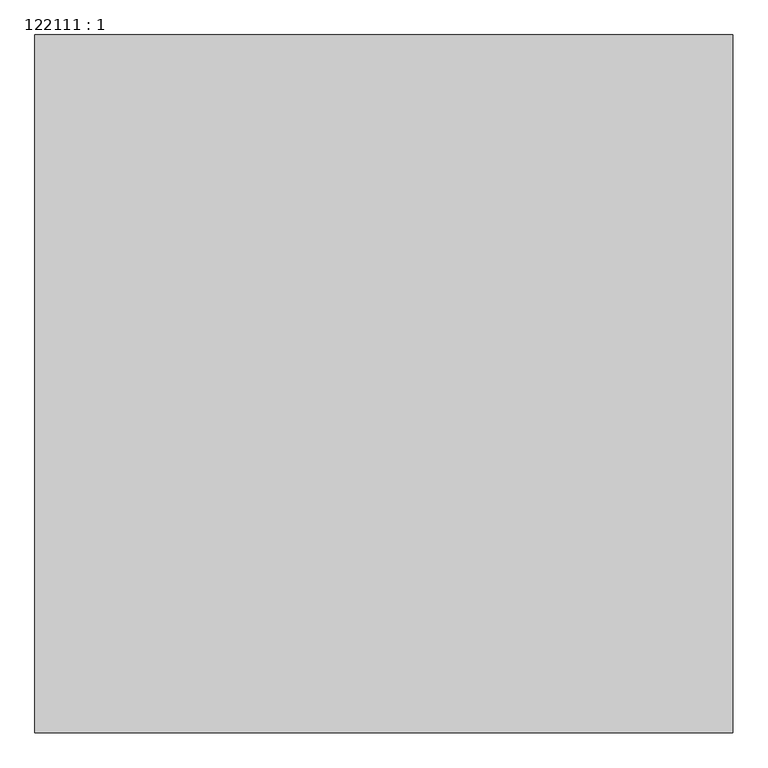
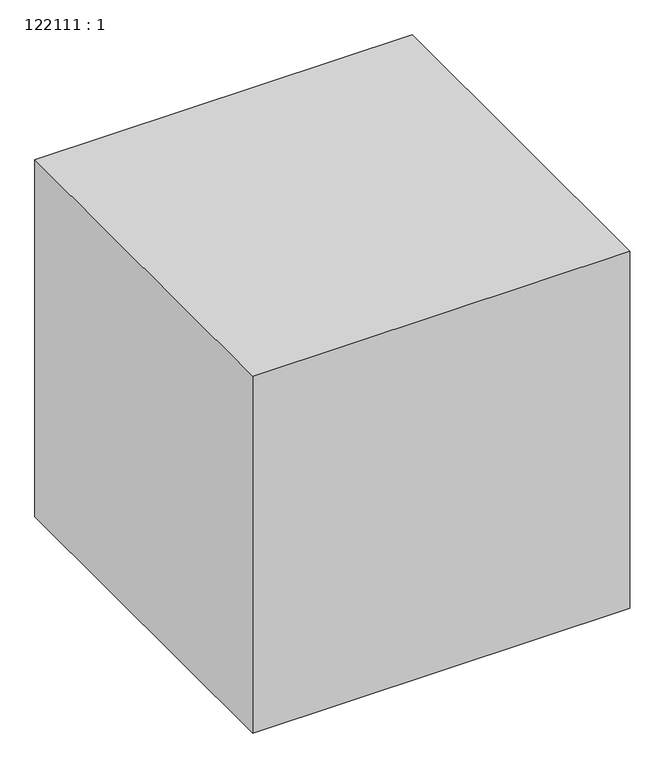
"""IFC4 building model written with IfcOpenShell, lengths in millimetres: proxy geometry, 122111 : 1."""

from ifc_helpers import new_model, si_unit, origin, origin_with_axes, place, context, project, spatial, polyline, outline, extrude, source, transform, mapped, element, save


def proxy_122111_1_8a0e9cde(model_context):
    return source(origin(), model_context, "Body", "SweptSolid", [
        extrude(outline(polyline([(-8307.9756708, 21335.2294472), (-8307.9756708, 20335.2294472), (-9307.9756708, 20335.2294472), (-9307.9756708, 21335.2294472), (-8307.9756708, 21335.2294472)])), origin_with_axes(), (0.0, 0.0, 1.0), 1000.0),
    ])


if __name__ == "__main__":
    model = new_model("IFC4")
    model_context = context("Model", 3, world=origin())
    ifc_project = project(units=[si_unit("LENGTHUNIT", "METRE", prefix="MILLI")], contexts=[model_context])
    site = spatial("IfcSite", under=ifc_project)
    building = spatial("IfcBuilding", under=site)
    placement = place(None, origin())
    proxy_122111_1_shape = proxy_122111_1_8a0e9cde(model_context)
    element("IfcBuildingElementProxy", 1, Name="122111 : 1", ObjectType="122111 : 1", at=placement, inside=building, context=model_context, shape_type="MappedRepresentation", body=[
        mapped(proxy_122111_1_shape, transform((0.0, 0.0, 0.0), x_axis=(1.0, 0.0, 0.0), y_axis=(0.0, 1.0, 0.0), z_axis=(0.0, 0.0, 1.0))),
    ])
    save(model, "model.ifc")
